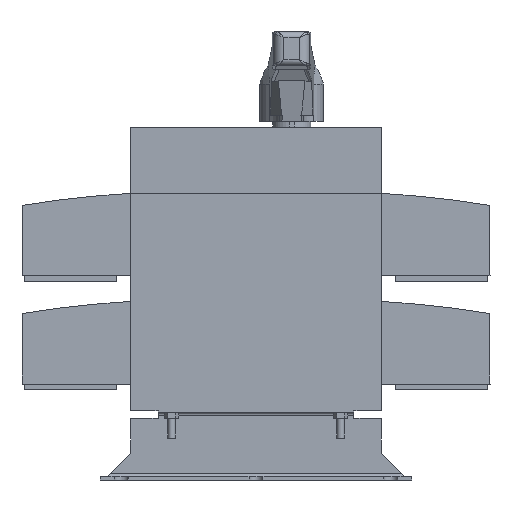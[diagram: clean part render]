
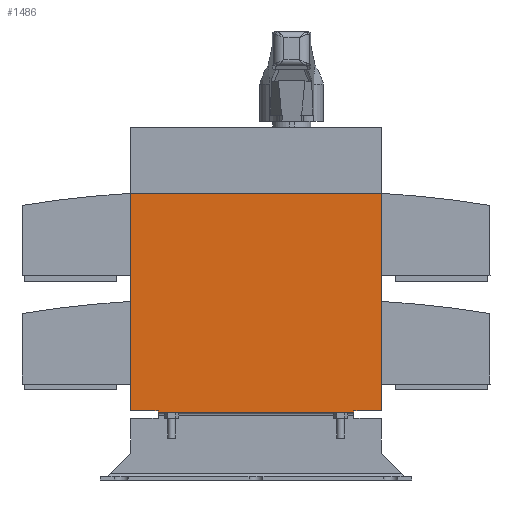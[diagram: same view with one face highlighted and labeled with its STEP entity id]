
A CAD part, front view. The second image highlights one B-rep face of the part: STEP entity #1486.
In plain terms, the highlighted planar face has unit normal (0, -1, 0).
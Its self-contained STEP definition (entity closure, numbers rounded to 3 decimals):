
#1486=ADVANCED_FACE('',(#3747),#2770,.F.);
#2770=PLANE('',#24570);
#3747=FACE_OUTER_BOUND('',#5110,.T.);
#5110=EDGE_LOOP('',(#7387,#7388,#7389,#7390,#7391,#7392,#7393,#7394));
#7387=ORIENTED_EDGE('',*,*,#16202,.F.);
#7388=ORIENTED_EDGE('',*,*,#16203,.F.);
#7389=ORIENTED_EDGE('',*,*,#16204,.F.);
#7390=ORIENTED_EDGE('',*,*,#16205,.F.);
#7391=ORIENTED_EDGE('',*,*,#15502,.T.);
#7392=ORIENTED_EDGE('',*,*,#15846,.F.);
#7393=ORIENTED_EDGE('',*,*,#16198,.F.);
#7394=ORIENTED_EDGE('',*,*,#16206,.F.);
#13257=VERTEX_POINT('',#32759);
#13259=VERTEX_POINT('',#32763);
#13597=VERTEX_POINT('',#33454);
#13871=VERTEX_POINT('',#34174);
#13873=VERTEX_POINT('',#34182);
#13874=VERTEX_POINT('',#34183);
#13875=VERTEX_POINT('',#34185);
#13876=VERTEX_POINT('',#34187);
#15502=EDGE_CURVE('',#13257,#13259,#18888,.T.);
#15846=EDGE_CURVE('',#13597,#13259,#19170,.T.);
#16198=EDGE_CURVE('',#13871,#13597,#19471,.T.);
#16202=EDGE_CURVE('',#13873,#13874,#19475,.T.);
#16203=EDGE_CURVE('',#13875,#13873,#19476,.T.);
#16204=EDGE_CURVE('',#13876,#13875,#19477,.T.);
#16205=EDGE_CURVE('',#13257,#13876,#19478,.T.);
#16206=EDGE_CURVE('',#13874,#13871,#19479,.T.);
#18888=LINE('',#32764,#21639);
#19170=LINE('',#33455,#21921);
#19471=LINE('',#34173,#22222);
#19475=LINE('',#34181,#22226);
#19476=LINE('',#34184,#22227);
#19477=LINE('',#34186,#22228);
#19478=LINE('',#34188,#22229);
#19479=LINE('',#34189,#22230);
#21639=VECTOR('',#26277,1.);
#21921=VECTOR('',#26701,1.);
#22222=VECTOR('',#27290,1.);
#22226=VECTOR('',#27298,1.);
#22227=VECTOR('',#27299,1.);
#22228=VECTOR('',#27300,1.);
#22229=VECTOR('',#27301,1.);
#22230=VECTOR('',#27302,1.);
#24570=AXIS2_PLACEMENT_3D('',#34190,#27303,#27304);
#26277=DIRECTION('',(-1.,0.,0.));
#26701=DIRECTION('',(0.,0.,1.));
#27290=DIRECTION('',(-1.,0.,0.));
#27298=DIRECTION('',(-1.,0.,0.));
#27299=DIRECTION('',(0.,0.,-1.));
#27300=DIRECTION('',(-1.,0.,0.));
#27301=DIRECTION('',(0.,0.,-1.));
#27302=DIRECTION('',(0.,0.,1.));
#27303=DIRECTION('',(0.,1.,0.));
#27304=DIRECTION('',(0.,0.,1.));
#32759=CARTESIAN_POINT('',(99.,-184.,-52.));
#32763=CARTESIAN_POINT('',(-99.,-184.,-52.));
#32764=CARTESIAN_POINT('',(-150.,-184.,-52.));
#33454=CARTESIAN_POINT('',(-99.,-184.,-223.));
#33455=CARTESIAN_POINT('',(-99.,-184.,-223.));
#34173=CARTESIAN_POINT('',(-150.,-184.,-223.));
#34174=CARTESIAN_POINT('',(-77.,-184.,-223.));
#34181=CARTESIAN_POINT('',(-150.,-184.,-224.5));
#34182=CARTESIAN_POINT('',(77.,-184.,-224.5));
#34183=CARTESIAN_POINT('',(-77.,-184.,-224.5));
#34184=CARTESIAN_POINT('',(77.,-184.,-221.5));
#34185=CARTESIAN_POINT('',(77.,-184.,-223.));
#34186=CARTESIAN_POINT('',(150.,-184.,-223.));
#34187=CARTESIAN_POINT('',(99.,-184.,-223.));
#34188=CARTESIAN_POINT('',(99.,-184.,-223.));
#34189=CARTESIAN_POINT('',(-77.,-184.,-221.5));
#34190=CARTESIAN_POINT('',(-150.,-184.,-52.));
